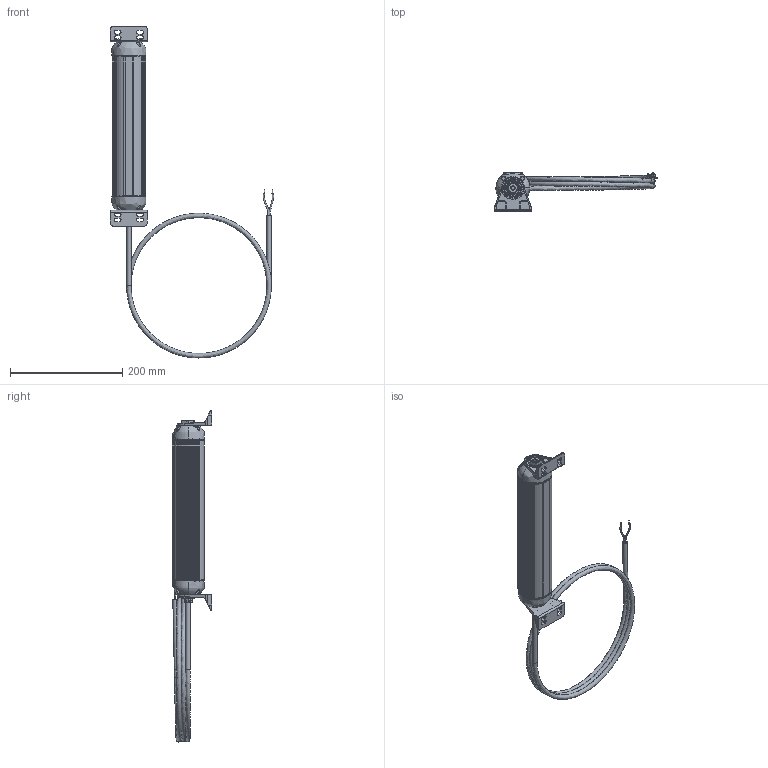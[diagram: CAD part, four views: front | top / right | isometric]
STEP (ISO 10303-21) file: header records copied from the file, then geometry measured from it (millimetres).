
FILE_DESCRIPTION (( 'STEP AP203' ), '1' );
FILE_NAME ('MWL-R300.STEP', '2024-08-06T14:14:27', ( '' ), ( '' ), 'SwSTEP 2.0', 'SolidWorks 2024', '' );
FILE_SCHEMA (( 'CONFIG_CONTROL_DESIGN' ));
Length unit declared in the file: millimetre
Products named in the file (18): M9R-300_ASM_1_ASM; MWL-R300; mwl-R-300; NEW-M9R_ASM_2_ASM_1_ASM; PCB_2835___ASM_1_ASM_1_ASM; FSJQ__2_1; PCB___1_1; 24V Cable; 24V Power Cable; BREP_21__2_1; M18_1_1; 24V wire; BREP_22__2_1; GRASS___2_1; ZHIJIA23_; CORD EXTENSION; DENGTI_5__2_1; NUT_2_4__1_1
Assembly tree (21 placements, depth 6):
  MWL-R300
    CORD EXTENSION
    mwl-R-300
      M9R-300_ASM_1_ASM
        NEW-M9R_ASM_2_ASM_1_ASM
          DENGTI_5__2_1
          GRASS___2_1
          BREP_22__2_1
          BREP_21__2_1
          PCB_2835___ASM_1_ASM_1_ASM
            PCB___1_1
          FSJQ__2_1  x2
          M18_1_1  x2
          NUT_2_4__1_1
      ZHIJIA23_  x2
    24V Cable
      24V Power Cable
      24V wire  x2
Bounding box: 290.89 x 70 x 592.19 mm (x, y, z)
Volume: 760513.1 mm3; surface area: 209032.2 mm2
Topology: 14 solids, 18 shells, 767 faces, 2123 edges, 1408 vertices
Faces by surface type: cylinder 290, plane 268, bspline 143, cone 66
Full cylindrical faces by diameter (mm): 0.852 x2, 1.785 x1, 1.839 x1, 2.05 x8, 6.5 x1, 8 x2, 9.5 x1, 10.5 x4, 18.3 x2, 18.5 x2, 32 x2, 36 x2, 36.5 x2
Entity records: 48586 total; most frequent: CARTESIAN_POINT 32206, ORIENTED_EDGE 3212, DIRECTION 2646, EDGE_CURVE 1607, VERTEX_POINT 1096, AXIS2_PLACEMENT_3D 985, EDGE_LOOP 711, VECTOR 676
